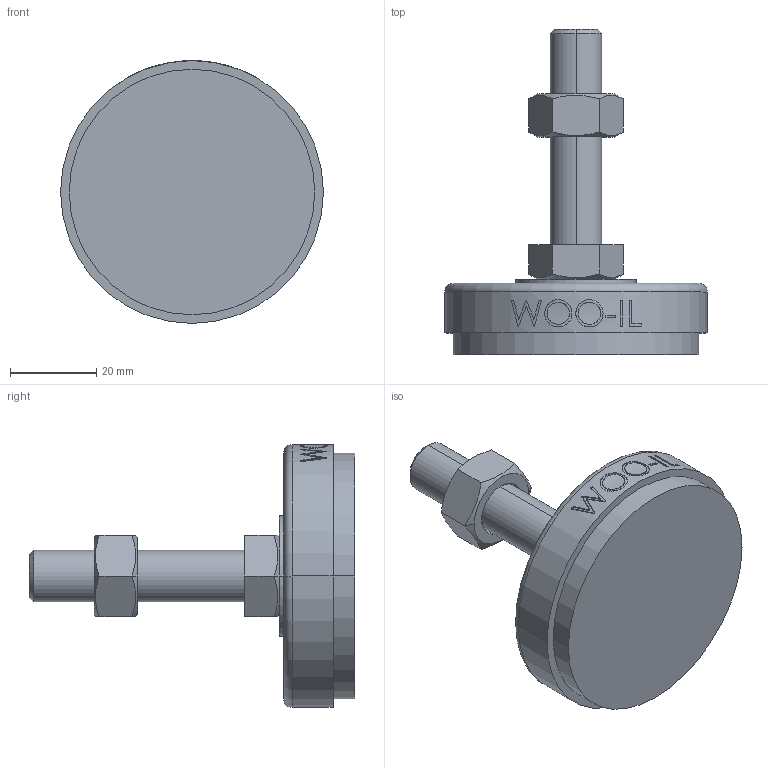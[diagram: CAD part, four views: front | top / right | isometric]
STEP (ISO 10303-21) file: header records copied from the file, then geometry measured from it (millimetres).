
FILE_DESCRIPTION (( 'STEP AP214' ), '1' );
FILE_NAME ('NS61-M12-50.step', '2021-01-11T05:45:19', ( '' ), ( '' ), 'SwSTEP 2.0', 'SolidWorks 2019', '' );
FILE_SCHEMA (( 'AUTOMOTIVE_DESIGN' ));
Length unit declared in the file: millimetre
Products named in the file (2): NS61-M12-50
Bounding box: 61 x 75.5 x 61 mm (x, y, z)
Volume: 56873 mm3; surface area: 13232.1 mm2
Topology: 3 solids, 3 shells, 96 faces, 223 edges, 144 vertices
Faces by surface type: plane 48, cylinder 18, bspline 16, cone 12, torus 2
Entity records: 4252 total; most frequent: CARTESIAN_POINT 2127, ORIENTED_EDGE 446, DIRECTION 381, EDGE_CURVE 223, VERTEX_POINT 144, AXIS2_PLACEMENT_3D 142, EDGE_LOOP 109, LINE 97
